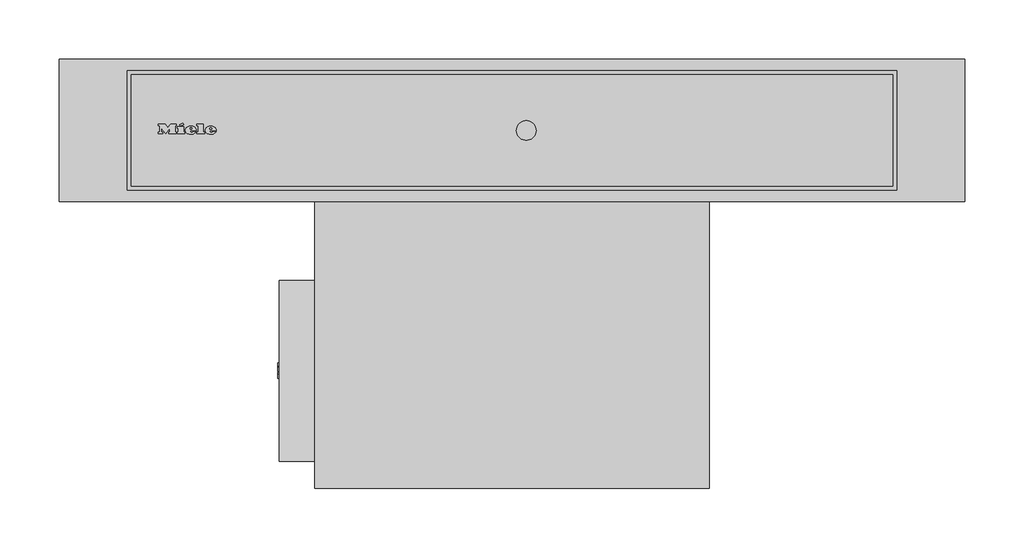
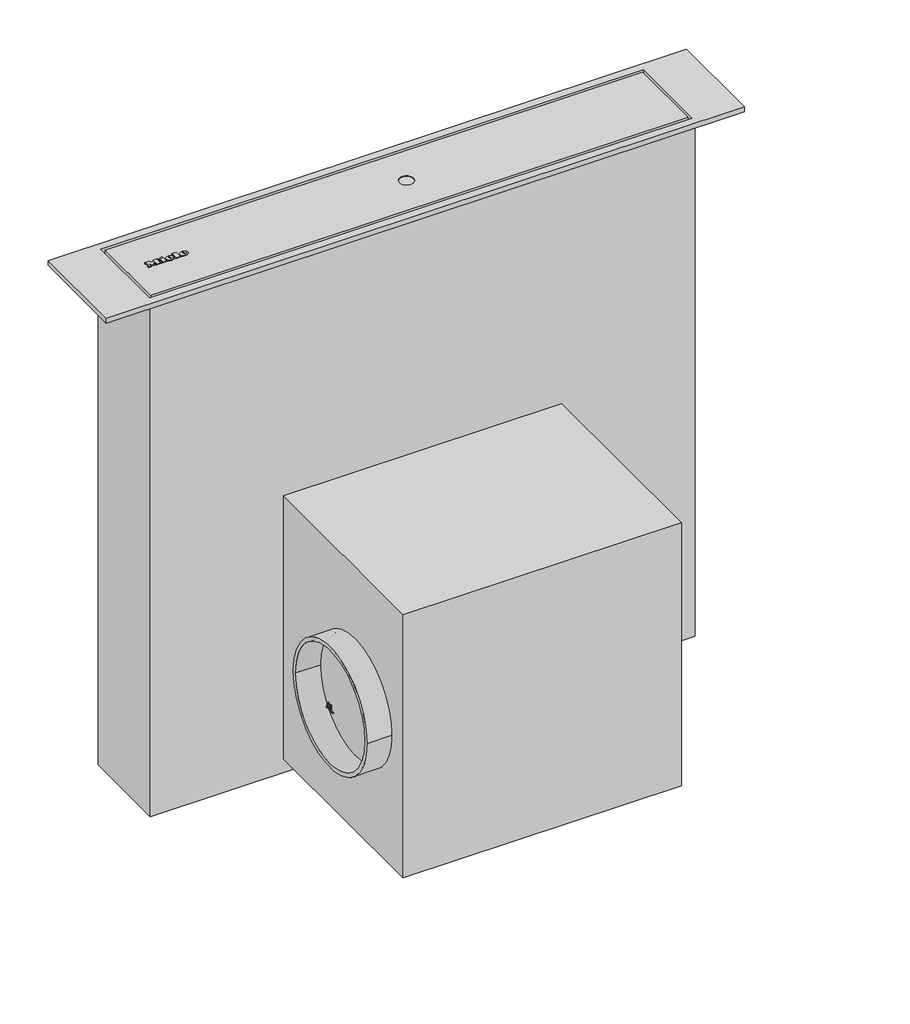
# Not in any storey: 1 proxy.
"""IFC4 building model written with IfcOpenShell, lengths in millimetres."""

from ifc_helpers import new_model, si_unit, origin, place, context, project, spatial, transform, mapped, element, save
from components import specialty_equipment_becc9887

model = new_model("IFC4")

# Units and contexts
model_context = context("Model", 3, world=origin())
ifc_project = project(units=[si_unit("LENGTHUNIT", "METRE", prefix="MILLI")], contexts=[model_context])

# Site, building
site = spatial("IfcSite", under=ifc_project)
building = spatial("IfcBuilding", under=site)

# Proxy
placement = place(None, origin())
specialty_equipment_shape = specialty_equipment_becc9887(model_context)
element("IfcBuildingElementProxy", 1, Name="10595900_USA_DA6881_EDST : 28688150_USA_10595900_DA6881_EDST", ObjectType="10595900_USA_DA6881_EDST : 28688150_USA_10595900_DA6881_EDST", at=placement, inside=building, context=model_context, shape_type="MappedRepresentation", body=[
    mapped(specialty_equipment_shape, transform((0.0, 0.0, 0.0), x_axis=(1.0, 0.0, 0.0), y_axis=(0.0, 1.0, 0.0), z_axis=(0.0, 0.0, 1.0))),
])

save(model, "model.ifc")
